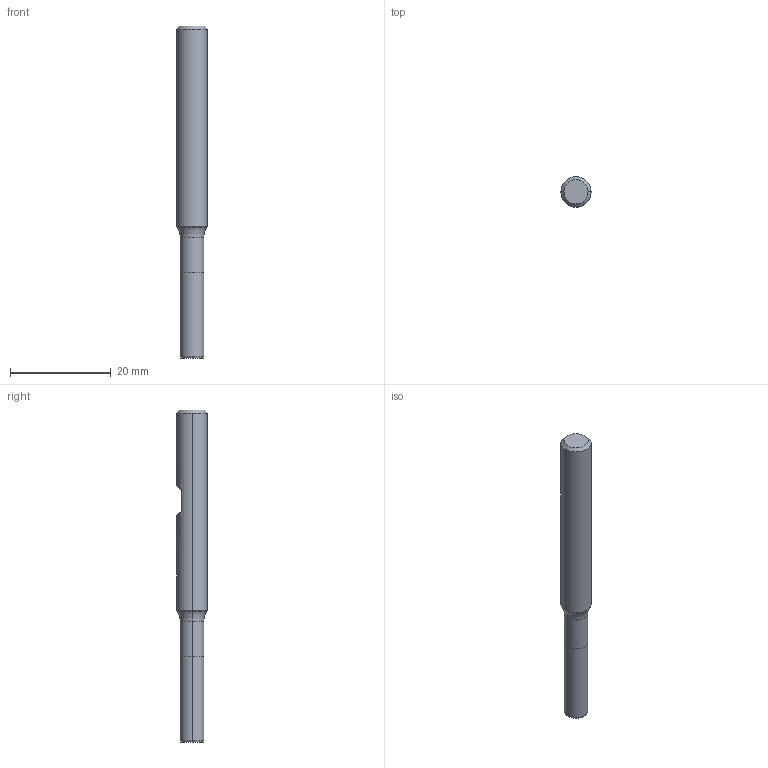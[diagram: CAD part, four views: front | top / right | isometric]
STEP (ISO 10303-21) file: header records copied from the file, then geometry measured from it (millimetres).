
FILE_DESCRIPTION (( 'STEP AP214' ), '1' );
FILE_NAME ('817.047.10_3D-model.step', '2022-02-23T23:13:13', ( '' ), ( '' ), 'SwSTEP 2.0', 'SolidWorks 2020', '' );
FILE_SCHEMA (( 'AUTOMOTIVE_DESIGN' ));
Length unit declared in the file: millimetre
Products named in the file (3): 817.047.10_3D-model; NOCUT-3D^Baugr37; CUT-3D^Baugr37
Assembly tree (2 placements, depth 2):
  817.047.10_3D-model
    CUT-3D^Baugr37
    NOCUT-3D^Baugr37
Bounding box: 6 x 6 x 66 mm (x, y, z)
Volume: 1570.8 mm3; surface area: 1213.6 mm2
Topology: 2 solids, 2 shells, 21 faces, 38 edges, 22 vertices
Faces by surface type: plane 7, cylinder 6, cone 6, torus 2
Entity records: 634 total; most frequent: DIRECTION 114, CARTESIAN_POINT 95, ORIENTED_EDGE 76, AXIS2_PLACEMENT_3D 49, EDGE_CURVE 38, EDGE_LOOP 22, VERTEX_POINT 22, FACE_OUTER_BOUND 21
